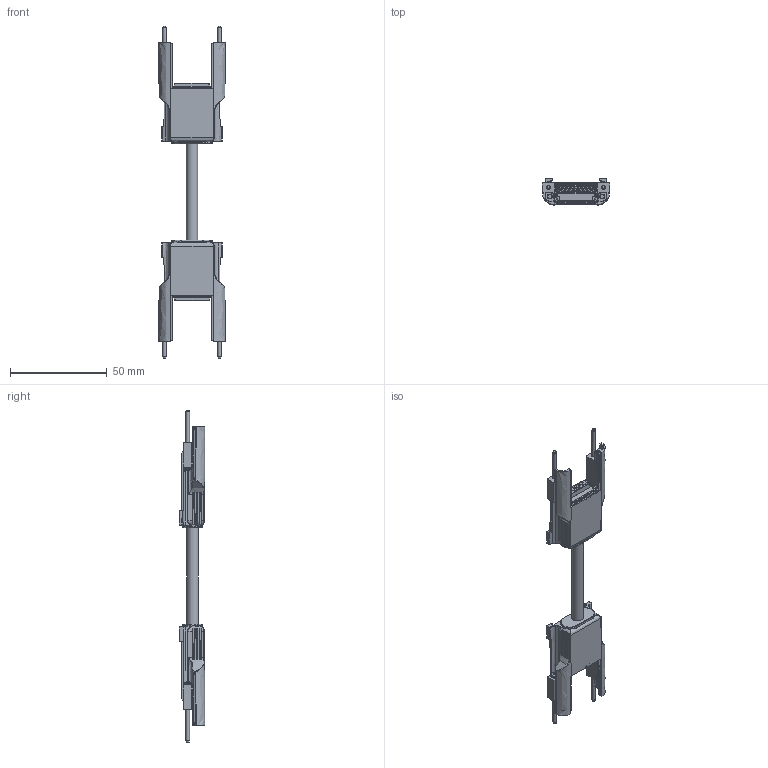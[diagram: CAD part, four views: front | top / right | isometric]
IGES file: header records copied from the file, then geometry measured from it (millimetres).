
Global section: file name: C:\Users\lrossetti\OneDrive - Datalogic S.p.a\Desktop\SG4E plugs - DSD igs\DSD-0345.igs; native system: NX V12.0; preprocessor: SIEMENS PLM Software NX 12.0; date: 20200605.160908; units: millimetre
Bounding box: 35 x 13.4 x 171.4 mm (x, y, z)
Surface area: 14656.6 mm2 (no closed solid volume)
Topology: 0 solids, 0 shells, 1545 faces, 8434 edges, 8330 vertices
Faces by surface type: bspline 1545
